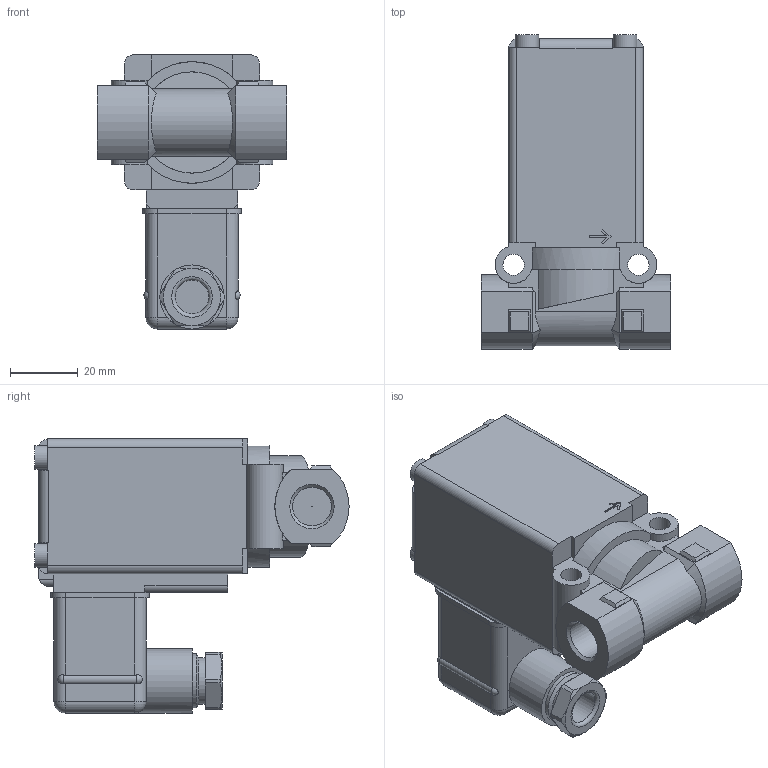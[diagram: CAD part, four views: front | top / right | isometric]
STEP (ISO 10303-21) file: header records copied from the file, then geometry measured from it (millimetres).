
FILE_DESCRIPTION(/* description */ ('STEP AP214'),/* implementation_level */ '2;1');
FILE_NAME(/* name */ '0256-145764-2_2-way_Solenoid_Valve',/* time_stamp */ '2024-07-31T16:52:02+02:00',/* author */ ('License CC BY-ND 4.0'),/* organization */ ('CADENAS'),/* preprocessor_version */ 'ST-DEVELOPER v19.3',/* originating_system */ 'PARTsolutions',/* authorisation */ ' ');
FILE_SCHEMA (('AUTOMOTIVE_DESIGN {1 0 10303 214 3 1 1}'));
Length unit declared in the file: millimetre
Products named in the file (1): 0256-145764-2/2-way Solenoid Valve
Bounding box: 56 x 93.1 x 81.2 mm (x, y, z)
Volume: 167357.8 mm3; surface area: 26420.4 mm2
Topology: 1 solids, 1 shells, 241 faces, 612 edges, 387 vertices
Faces by surface type: plane 152, cylinder 64, cone 16, sphere 8, torus 1
Full cylindrical faces by diameter (mm): 0.2 x1, 6.3 x2, 7 x5, 10 x1, 11.445 x2, 13.7 x1, 16 x1, 19 x1
Entity records: 8891 total; most frequent: CARTESIAN_POINT 1396, DIRECTION 1198, ORIENTED_EDGE 1178, EDGE_CURVE 589, AXIS2_PLACEMENT_3D 411, VERTEX_POINT 387, LINE 376, VECTOR 376
